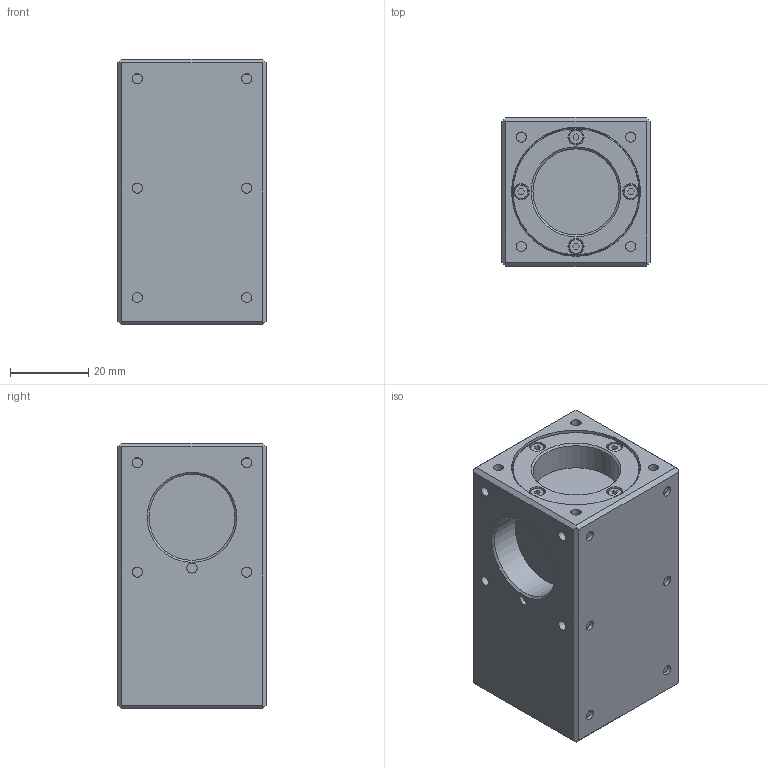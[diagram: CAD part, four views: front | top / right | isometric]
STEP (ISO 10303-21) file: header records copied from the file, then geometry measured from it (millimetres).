
FILE_DESCRIPTION(/* description */ (''),/* implementation_level */ '2;1');
FILE_NAME(/* name */ 'LA_8003_0186_A.stp',/* time_stamp */ '2011-10-25T10:10:20+01:00',/* author */ (''),/* organization */ (''),/* preprocessor_version */ 'ST-DEVELOPER v11',/* originating_system */ 'SIEMENS PLM Software NX 7.5',/* authorisation */ '');
FILE_SCHEMA (('CONFIG_CONTROL_DESIGN'));
Length unit declared in the file: millimetre
Products named in the file (1): ad13F63Em226
Bounding box: 38 x 38 x 68 mm (x, y, z)
Volume: 84320.5 mm3; surface area: 17347.8 mm2
Topology: 1 solids, 5 shells, 935 faces, 2460 edges, 1634 vertices
Faces by surface type: plane 664, extrusion 173, cylinder 82, cone 16
Full cylindrical faces by diameter (mm): 2 x4, 2.2 x1, 2.5 x5, 2.594 x43, 2.6 x3, 3.8 x4, 4.1 x4, 22 x4, 31.5 x1, 32.7 x2, 33 x2
Entity records: 28440 total; most frequent: CARTESIAN_POINT 6331, ORIENTED_EDGE 4652, DIRECTION 3870, EDGE_CURVE 2326, VECTOR 1950, LINE 1777, VERTEX_POINT 1584, EDGE_LOOP 1150
